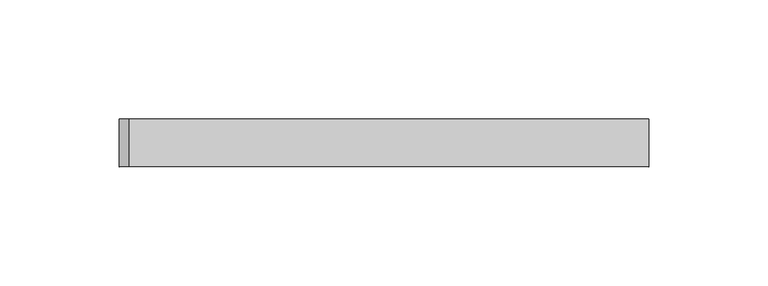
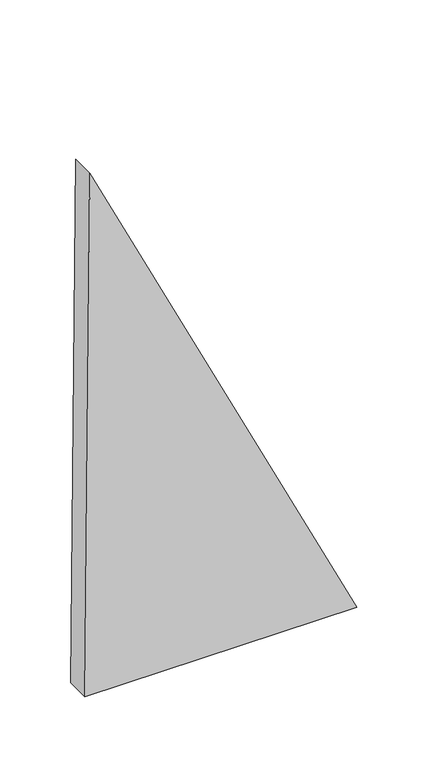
"""IFC4 building model written with IfcOpenShell, lengths in millimetres: plate geometry, 空系统嵌板 : 空."""

import ifcopenshell
import ifcopenshell.guid

model = None  # the IFC model being written
_history = None  # IfcOwnerHistory: only IFC2X3 demands one
_inside = {}  # id of a spatial element -> (the spatial element, [elements in it])
_under = {}  # id of a project, library or spatial element -> (it, [spatial elements below it])
_declared = {}  # id of a project -> (the project, [libraries it declares])
_typed = {}  # id of a type object -> (the type object, [elements of that type])
_made_of = {}  # id of a material, layer set ... -> (it, [elements and type objects made of it])


def new_model(schema):
    """Start an empty IFC model of exactly this schema.

    Asked for "IFC4X3", IfcOpenShell would pick the latest addendum, in which some entities
    have other attributes; the version numbers below select the first issue.
    IFC2X3 requires an IfcOwnerHistory on every rooted entity: one is made here for all.
    """
    global model, _history
    if schema == "IFC4X3":
        model = ifcopenshell.file(schema_version=(4, 3, 0, 0))
    else:
        model = ifcopenshell.file(schema=schema)
    _inside.clear()
    _under.clear()
    _declared.clear()
    _typed.clear()
    _made_of.clear()
    _history = None
    if model.schema == "IFC2X3":
        org = make("IfcOrganization", Name="unknown")
        user = make(
            "IfcPersonAndOrganization",
            ThePerson=make("IfcPerson", FamilyName="unknown"),
            TheOrganization=org,
        )
        app = make(
            "IfcApplication",
            ApplicationDeveloper=org,
            Version="unknown",
            ApplicationFullName="unknown",
            ApplicationIdentifier="unknown",
        )
        _history = make(
            "IfcOwnerHistory",
            OwningUser=user,
            OwningApplication=app,
            ChangeAction="ADDED",
            CreationDate=0,
        )
    return model


def make(cls, **values):
    """One entity of the class cls with the attributes given. An attribute that is None is left unset."""
    return model.create_entity(
        cls, **{name: value for name, value in values.items() if value is not None}
    )


def rooted(cls, **values):
    """An entity with a GlobalId (a new one), such as an element, a storey or a relation."""
    return make(cls, GlobalId=ifcopenshell.guid.new(), OwnerHistory=_history, **values)


def si_unit(unit_type, name, prefix=None):
    """IfcSIUnit, for example si_unit("LENGTHUNIT", "METRE", prefix="MILLI")."""
    return make("IfcSIUnit", UnitType=unit_type, Prefix=prefix, Name=name)


def assignment(units):
    """IfcUnitAssignment: the units of a project."""
    return None if units is None else make("IfcUnitAssignment", Units=units)


def point(xyz):
    """IfcCartesianPoint."""
    return None if xyz is None else make("IfcCartesianPoint", Coordinates=xyz)


def direction(xyz):
    """IfcDirection."""
    return None if xyz is None else make("IfcDirection", DirectionRatios=xyz)


def frame(location, z_axis=None, x_axis=None):
    """IfcAxis2Placement3D, a coordinate frame: its origin and axes. An axis left out is left unset."""
    return make(
        "IfcAxis2Placement3D",
        Location=point(location),
        Axis=direction(z_axis),
        RefDirection=direction(x_axis),
    )


def origin():
    """The frame at (0, 0, 0) with its axes left unset."""
    return frame((0.0, 0.0, 0.0))


def place(relative_to, where):
    """IfcLocalPlacement: puts the frame where relative to a parent placement (None: the world)."""
    return make(
        "IfcLocalPlacement", PlacementRelTo=relative_to, RelativePlacement=where
    )


def context(
    kind, dimensions, precision=None, world=None, true_north=None, identifier=None
):
    """IfcGeometricRepresentationContext, for example the 3D "Model" context."""
    return make(
        "IfcGeometricRepresentationContext",
        ContextIdentifier=identifier,
        ContextType=kind,
        CoordinateSpaceDimension=dimensions,
        Precision=precision,
        WorldCoordinateSystem=world,
        TrueNorth=true_north,
    )


def project(units=None, contexts=None):
    """IfcProject with its units and contexts."""
    return rooted(
        "IfcProject",
        Name="project",
        RepresentationContexts=contexts,
        UnitsInContext=assignment(units),
    )


def spatial(cls, under=None, at=None, **own):
    """A site, building, storey or space (cls), placed at a placement, below another one or the project."""
    s = rooted(cls, ObjectPlacement=at, **own)
    if under is not None:
        _under.setdefault(under.id(), (under, []))[1].append(s)
    return s


def polyline(points):
    """IfcPolyline through the points."""
    return make("IfcPolyline", Points=[point(p) for p in points])


def outline(outer, holes=None, kind="AREA"):
    """IfcArbitraryClosedProfileDef: a profile drawn as a closed curve; with holes, ...WithVoids."""
    if holes is None:
        return make("IfcArbitraryClosedProfileDef", ProfileType=kind, OuterCurve=outer)
    return make(
        "IfcArbitraryProfileDefWithVoids",
        ProfileType=kind,
        OuterCurve=outer,
        InnerCurves=holes,
    )


def extrude(swept, where, along, depth):
    """IfcExtrudedAreaSolid: the profile swept, set in the frame where, extruded along a direction by depth."""
    return make(
        "IfcExtrudedAreaSolid",
        SweptArea=swept,
        Position=where,
        ExtrudedDirection=direction(along),
        Depth=depth,
    )


def shape(context_of_items, identifier, shape_type, items):
    """IfcShapeRepresentation: the items that make up one representation, for example the "Body"."""
    return make(
        "IfcShapeRepresentation",
        ContextOfItems=context_of_items,
        RepresentationIdentifier=identifier,
        RepresentationType=shape_type,
        Items=items,
    )


def source(mapping_origin, context_of_items, identifier, shape_type, items):
    """IfcRepresentationMap: a shape defined once, which mapped items show again and again."""
    return make(
        "IfcRepresentationMap",
        MappingOrigin=mapping_origin,
        MappedRepresentation=shape(context_of_items, identifier, shape_type, items),
    )


def transform(
    local_origin,
    x_axis=None,
    y_axis=None,
    z_axis=None,
    scale=None,
    scale2=None,
    scale3=None,
    uniform=True,
):
    """IfcCartesianTransformationOperator3D, or its non-uniform kind. x_axis, y_axis, z_axis: its Axis1, 2, 3."""
    if uniform:
        return make(
            "IfcCartesianTransformationOperator3D",
            Axis1=direction(x_axis),
            Axis2=direction(y_axis),
            LocalOrigin=point(local_origin),
            Scale=scale,
            Axis3=direction(z_axis),
        )
    return make(
        "IfcCartesianTransformationOperator3DnonUniform",
        Axis1=direction(x_axis),
        Axis2=direction(y_axis),
        LocalOrigin=point(local_origin),
        Scale=scale,
        Axis3=direction(z_axis),
        Scale2=scale2,
        Scale3=scale3,
    )


def mapped(mapping_source, mapping_target):
    """IfcMappedItem: shows the shape of a source again, moved by a transform."""
    return make(
        "IfcMappedItem", MappingSource=mapping_source, MappingTarget=mapping_target
    )


def made_of(thing, what):
    """Note that an element or type object is made of a material, layer set ...; save() writes the relation."""
    if what is not None:
        _made_of.setdefault(what.id(), (what, []))[1].append(thing)
    return thing


def element(
    cls,
    number,
    at=None,
    inside=None,
    cuts=None,
    type_object=None,
    material=None,
    context=None,
    identifier="Body",
    shape_type=None,
    held_by="IfcProductDefinitionShape",
    body=None,
    shapes=None,
    **own,
):
    """One element of the class cls, such as IfcWall. Its Tag is "e" and its number.

    at: its placement. inside: the storey or other place that contains it. cuts: it is an
    opening in that element (IfcRelVoidsElement). A single representation is given by context,
    identifier, shape_type and body (its items); several are given by shapes. held_by: the class
    of the entity that holds the representations. save() writes the other relations.
    """
    e = rooted(cls, Tag="e%d" % number, ObjectPlacement=at, **own)
    if body is not None:
        shapes = [shape(context, identifier, shape_type, body)]
    if shapes is not None:
        e.Representation = make(held_by, Representations=shapes)
    if inside is not None:
        _inside.setdefault(inside.id(), (inside, []))[1].append(e)
    if cuts is not None:
        rooted(
            "IfcRelVoidsElement", RelatingBuildingElement=cuts, RelatedOpeningElement=e
        )
    if type_object is not None:
        _typed.setdefault(type_object.id(), (type_object, []))[1].append(e)
    return made_of(e, material)


def aggregate(whole, parts):
    """IfcRelAggregates: a whole, such as a stair, and the parts it consists of."""
    return rooted("IfcRelAggregates", RelatingObject=whole, RelatedObjects=parts)


def save(model, path):
    """Write the relations noted so far, then the file.

    IfcRelAggregates (storeys below a building ...), IfcRelContainedInSpatialStructure (elements
    in a storey), IfcRelDefinesByType, IfcRelAssociatesMaterial and IfcRelDeclares: one each for
    every whole, place, type object, material and project.
    """
    for whole, parts in _under.values():
        aggregate(whole, parts)
    for where, things in _inside.values():
        rooted(
            "IfcRelContainedInSpatialStructure",
            RelatedElements=things,
            RelatingStructure=where,
        )
    for kind, things in _typed.values():
        rooted("IfcRelDefinesByType", RelatedObjects=things, RelatingType=kind)
    for what, things in _made_of.values():
        rooted("IfcRelAssociatesMaterial", RelatedObjects=things, RelatingMaterial=what)
    for by, libraries in _declared.values():
        rooted("IfcRelDeclares", RelatingContext=by, RelatedDefinitions=libraries)
    model.write(path)


def plate_ecea87b7(model_context):
    return source(origin(), model_context, "Body", "SweptSolid", [
        extrude(outline(polyline([(0.282435, -111.0250646), (0.0, 111.0250646), (450.7720607, -107.0781031), (0.282435, -111.0250646)])), frame((0.0, -10.0, 0.0), z_axis=(0.0, 1.0, 0.0), x_axis=(0.0, 0.0, 1.0)), (0.0, 0.0, 1.0), 20.0),
    ])


if __name__ == "__main__":
    model = new_model("IFC4")
    model_context = context("Model", 3, world=origin())
    ifc_project = project(units=[si_unit("LENGTHUNIT", "METRE", prefix="MILLI")], contexts=[model_context])
    site = spatial("IfcSite", under=ifc_project)
    building = spatial("IfcBuilding", under=site)
    placement = place(None, origin())
    plate_shape = plate_ecea87b7(model_context)
    element("IfcPlate", 1, ObjectType="空系统嵌板 : 空", at=placement, inside=building, context=model_context, shape_type="MappedRepresentation", body=[
        mapped(plate_shape, transform((0.0, 0.0, 0.0), x_axis=(1.0, 0.0, 0.0), y_axis=(0.0, 1.0, 0.0), z_axis=(0.0, 0.0, 1.0))),
    ])
    save(model, "model.ifc")
